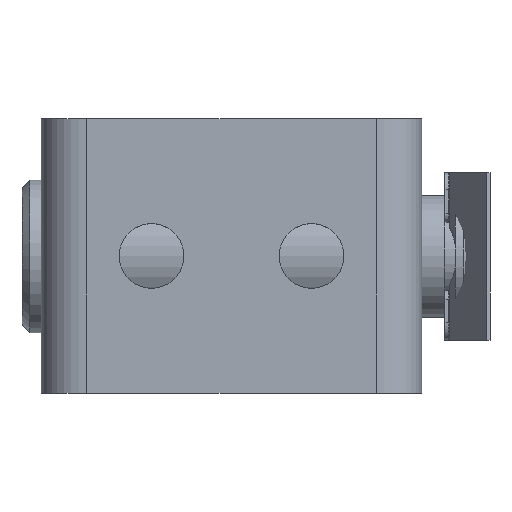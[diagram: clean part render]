
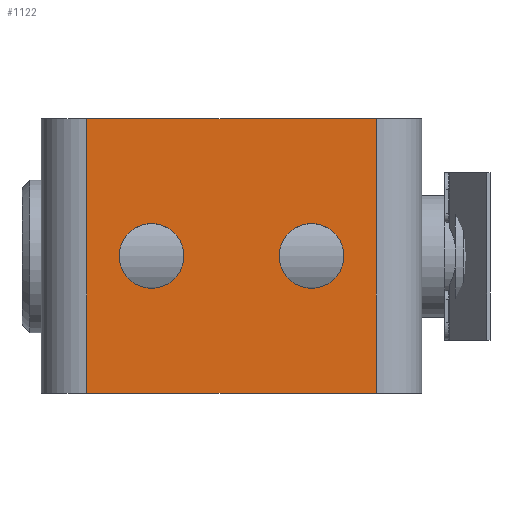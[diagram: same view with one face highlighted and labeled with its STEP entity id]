
A CAD part, top view. The second image highlights one B-rep face of the part: STEP entity #1122.
In plain terms, the highlighted planar face has unit normal (0, 0, 1).
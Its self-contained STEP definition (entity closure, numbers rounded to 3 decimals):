
#41=PLANE('',#1203);
#77=LINE('',#1721,#170);
#78=LINE('',#1724,#171);
#82=LINE('',#1738,#175);
#83=LINE('',#1739,#176);
#170=VECTOR('',#1350,36.);
#171=VECTOR('',#1353,38.);
#175=VECTOR('',#1365,38.);
#176=VECTOR('',#1366,36.);
#264=FACE_BOUND('',#358,.T.);
#265=FACE_BOUND('',#359,.T.);
#287=FACE_OUTER_BOUND('',#357,.T.);
#357=EDGE_LOOP('',(#786,#787,#788,#789));
#358=EDGE_LOOP('',(#790));
#359=EDGE_LOOP('',(#791));
#441=CIRCLE('',#1192,4.25);
#443=CIRCLE('',#1195,4.25);
#504=VERTEX_POINT('',#1706);
#506=VERTEX_POINT('',#1711);
#507=VERTEX_POINT('',#1714);
#510=VERTEX_POINT('',#1719);
#511=VERTEX_POINT('',#1723);
#517=VERTEX_POINT('',#1737);
#612=EDGE_CURVE('',#504,#504,#441,.T.);
#614=EDGE_CURVE('',#506,#506,#443,.T.);
#618=EDGE_CURVE('',#510,#507,#77,.T.);
#619=EDGE_CURVE('',#511,#507,#78,.T.);
#626=EDGE_CURVE('',#510,#517,#82,.T.);
#627=EDGE_CURVE('',#511,#517,#83,.T.);
#786=ORIENTED_EDGE('',*,*,#618,.F.);
#787=ORIENTED_EDGE('',*,*,#626,.T.);
#788=ORIENTED_EDGE('',*,*,#627,.F.);
#789=ORIENTED_EDGE('',*,*,#619,.T.);
#790=ORIENTED_EDGE('',*,*,#612,.T.);
#791=ORIENTED_EDGE('',*,*,#614,.T.);
#1122=ADVANCED_FACE('',(#287,#264,#265),#41,.T.);
#1192=AXIS2_PLACEMENT_3D('',#1707,#1335,#1336);
#1195=AXIS2_PLACEMENT_3D('',#1712,#1341,#1342);
#1203=AXIS2_PLACEMENT_3D('',#1736,#1363,#1364);
#1335=DIRECTION('center_axis',(0.,0.,-1.));
#1336=DIRECTION('ref_axis',(1.,0.,0.));
#1341=DIRECTION('center_axis',(0.,0.,-1.));
#1342=DIRECTION('ref_axis',(1.,0.,0.));
#1350=DIRECTION('',(0.,1.,0.));
#1353=DIRECTION('',(-1.,0.,0.));
#1363=DIRECTION('center_axis',(0.,0.,1.));
#1364=DIRECTION('ref_axis',(0.,-1.,0.));
#1365=DIRECTION('',(1.,0.,0.));
#1366=DIRECTION('',(0.,-1.,0.));
#1706=CARTESIAN_POINT('',(14.75,0.,42.));
#1707=CARTESIAN_POINT('Origin',(10.5,0.,42.));
#1711=CARTESIAN_POINT('',(-6.25,0.,42.));
#1712=CARTESIAN_POINT('Origin',(-10.5,0.,42.));
#1714=CARTESIAN_POINT('',(-19.,18.,42.));
#1719=CARTESIAN_POINT('',(-19.,-18.,42.));
#1721=CARTESIAN_POINT('',(-19.,9.,42.));
#1723=CARTESIAN_POINT('',(19.,18.,42.));
#1724=CARTESIAN_POINT('',(0.,18.,42.));
#1736=CARTESIAN_POINT('Origin',(0.,18.,42.));
#1737=CARTESIAN_POINT('',(19.,-18.,42.));
#1738=CARTESIAN_POINT('',(0.,-18.,42.));
#1739=CARTESIAN_POINT('',(19.,9.,42.));
